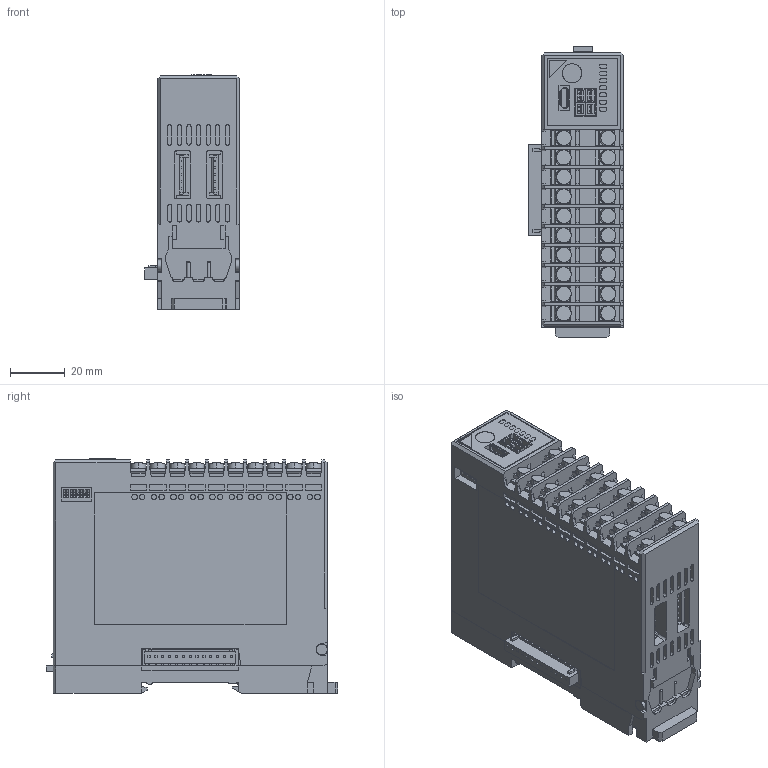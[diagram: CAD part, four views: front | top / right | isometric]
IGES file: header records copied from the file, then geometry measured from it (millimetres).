
Start section: SolidWorks IGES file using analytic representation for surfaces
Global section: file name: \\Mecha-dt\data\mecha_3d\Q\Q僔儕乕僘\QTC1-4\D20-005\HP-3D\QTC1-40T_iges\QTC1-40T_230515.IGS; native system: SolidWorks 2022; preprocessor: SolidWorks 2022; author: soyama; date: 230515.154908; units: millimetre
Bounding box: 34.6 x 106.3 x 85.6 mm (x, y, z)
Surface area: 44261.5 mm2 (no closed solid volume)
Topology: 0 solids, 0 shells, 2044 faces, 17152 edges, 17150 vertices
Faces by surface type: bspline 1658, revolution 386
